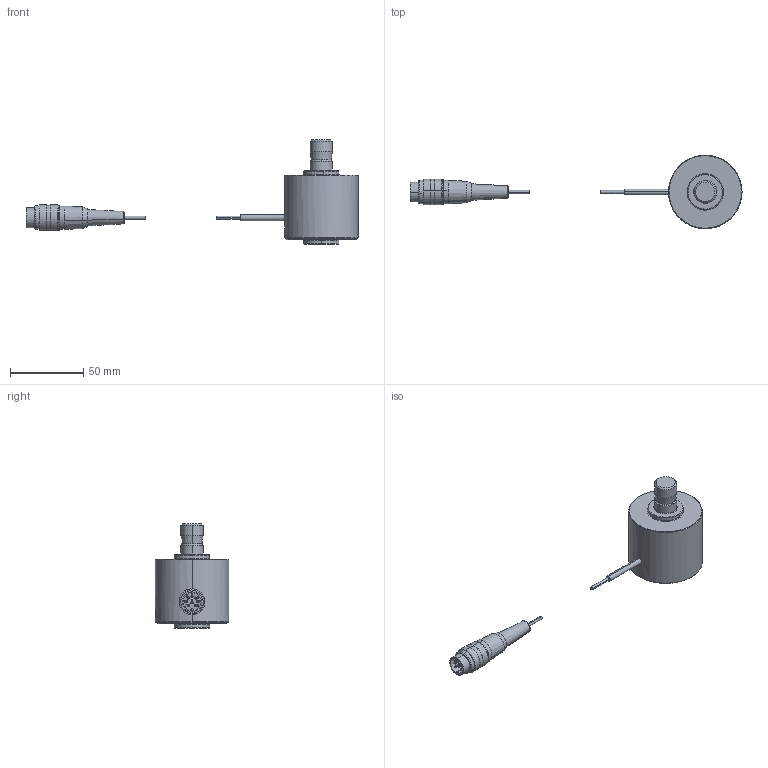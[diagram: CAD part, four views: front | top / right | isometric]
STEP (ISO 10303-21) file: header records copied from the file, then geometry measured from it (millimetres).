
FILE_DESCRIPTION(('STEP AP203'),'1');
FILE_NAME('C:/TPO v2/SharedFS/Outgoing/burster_8552-5500-v1330_f4a15uh0yngmr8b63w5h5d2db.stp','2013-08-27T17:36:11',('TraceParts'),('TraceParts S.A.'),'XStep 1.0',' ',' ');
FILE_SCHEMA(('CONFIG_CONTROL_DESIGN'));
Length unit declared in the file: millimetre
Products named in the file (3): 1; 2; 3
Bounding box: 225.89 x 50 x 71 mm (x, y, z)
Volume: 96427.7 mm3; surface area: 30245.9 mm2
Topology: 3 solids, 6 shells, 346 faces, 919 edges, 623 vertices
Faces by surface type: plane 115, bspline 84, cylinder 81, cone 50, torus 14, sphere 2
Entity records: 14849 total; most frequent: CARTESIAN_POINT 6422, ORIENTED_EDGE 1838, DIRECTION 1546, EDGE_CURVE 919, VERTEX_POINT 623, AXIS2_PLACEMENT_3D 573, LINE 400, VECTOR 400
